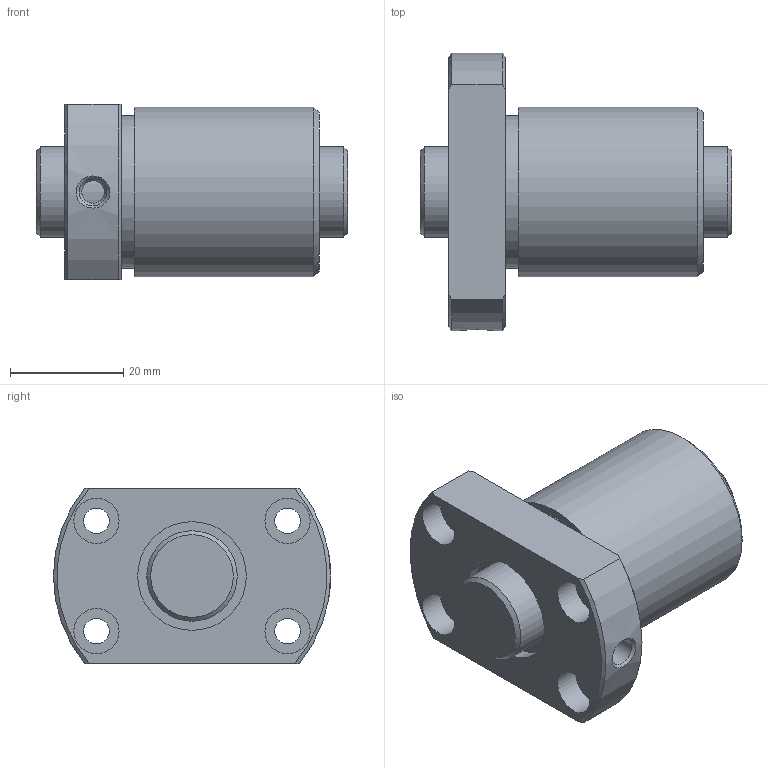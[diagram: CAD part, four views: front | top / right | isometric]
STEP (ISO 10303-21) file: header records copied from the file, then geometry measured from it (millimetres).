
FILE_DESCRIPTION(/* description */ ('STEP AP203'),/* implementation_level */ '2;1');
FILE_NAME(/* name */ 'DK1605-3RRG1+55LC0_000',/* time_stamp */ '2025-01-13T09:07:31+01:00',/* author */ ('License CC BY-ND 4.0'),/* organization */ ('CADENAS'),/* preprocessor_version */ 'ST-DEVELOPER v19.3',/* originating_system */ 'PARTsolutions',/* authorisation */ ' ');
FILE_SCHEMA (('CONFIG_CONTROL_DESIGN'));
Length unit declared in the file: millimetre
Products named in the file (3): DK1605-3RRG1+55LC0_000; DK 1605-3RR05500 Shaft; DK 1605-3RR0Nut
Assembly tree (2 placements, depth 2):
  DK1605-3RRG1+55LC0_000
    DK 1605-3RR05500 Shaft
    DK 1605-3RR0Nut
Bounding box: 55 x 49 x 31 mm (x, y, z)
Volume: 38544.3 mm3; surface area: 13552.6 mm2
Topology: 2 solids, 2 shells, 41 faces, 83 edges, 54 vertices
Faces by surface type: cylinder 18, plane 14, cone 9
Full cylindrical faces by diameter (mm): 4 x1, 4.5 x4, 4.917 x1, 8 x4, 16 x2, 19.2 x2, 27 x1, 30 x1
Entity records: 1087 total; most frequent: CARTESIAN_POINT 200, DIRECTION 180, ORIENTED_EDGE 120, AXIS2_PLACEMENT_3D 86, EDGE_LOOP 82, FACE_BOUND 82, EDGE_CURVE 60, VERTEX_POINT 52
